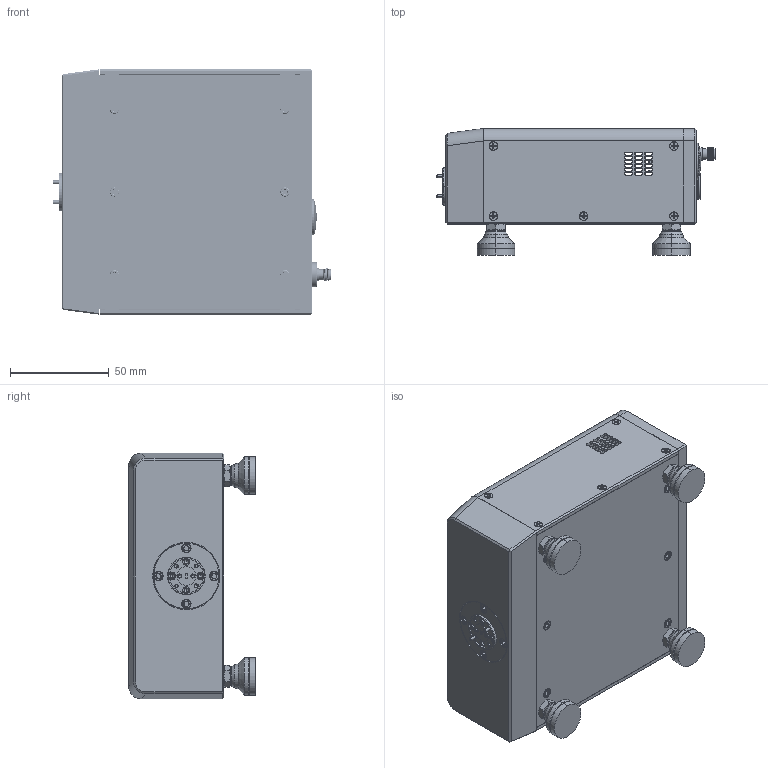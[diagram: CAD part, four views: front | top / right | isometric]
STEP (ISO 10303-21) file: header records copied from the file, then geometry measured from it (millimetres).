
FILE_DESCRIPTION (( 'STEP AP214' ), '1' );
FILE_NAME ('TE-F-A-2, CTRLD.STEP', '2025-02-06T19:57:38', ( '' ), ( '' ), 'SwSTEP 2.0', 'SolidWorks 2021', '' );
FILE_SCHEMA (( 'AUTOMOTIVE_DESIGN' ));
Length unit declared in the file: inch
Products named in the file (1): TE-F-A-2, CTRLD
Bounding box: 141.1 x 64.14 x 124.32 mm (x, y, z)
Volume: 293753.9 mm3; surface area: 146406.1 mm2
Topology: 51 solids, 51 shells, 2782 faces, 7222 edges, 4526 vertices
Faces by surface type: cylinder 1116, plane 993, cone 531, bspline 76, sphere 38, torus 28
Entity records: 115999 total; most frequent: CARTESIAN_POINT 50271, ORIENTED_EDGE 14084, DIRECTION 13015, EDGE_CURVE 7042, AXIS2_PLACEMENT_3D 4916, VERTEX_POINT 4516, VECTOR 3183, LINE 3183
